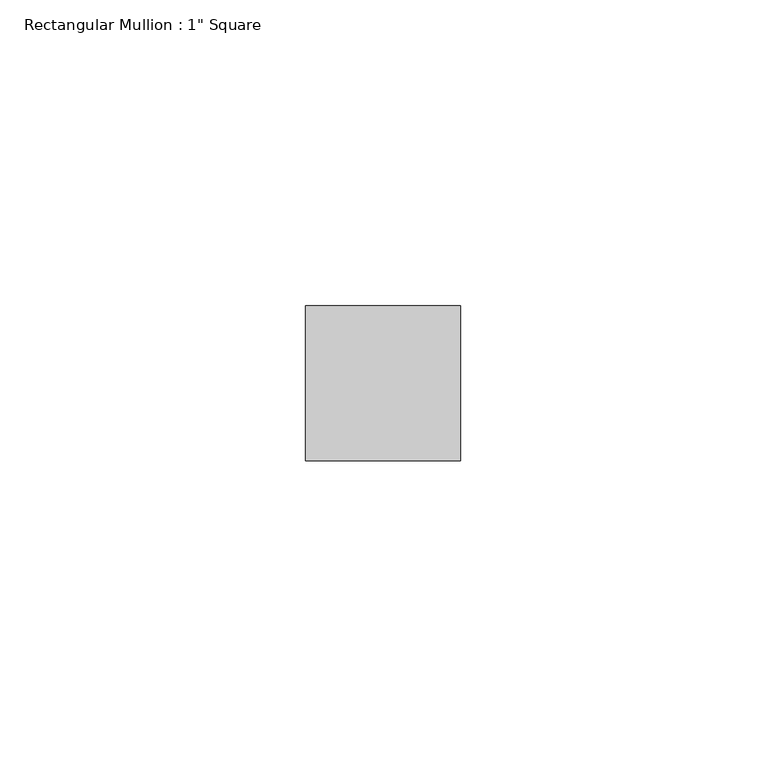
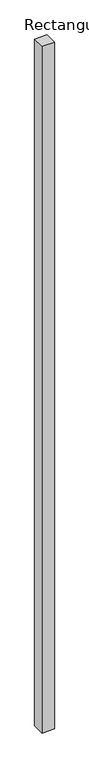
"""IFC4 building model written with IfcOpenShell, lengths in millimetres: member geometry."""

from ifc_helpers import new_model, si_unit, frame, origin, place, context, project, spatial, polyline, outline, extrude, source, transform, mapped, element, save


def member_07455e61(model_context):
    return source(origin(), model_context, "Body", "SweptSolid", [
        extrude(outline(polyline([(12.7, 12.7), (12.7, -12.7), (-12.7, -12.7), (-12.7, 12.7), (12.7, 12.7)])), frame((0.0, 0.0, -1482.434148), z_axis=(0.0, 0.0, 1.0), x_axis=(1.0, 0.0, 0.0)), (0.0, 0.0, 1.0), 1482.434148),
    ])


if __name__ == "__main__":
    model = new_model("IFC4")
    model_context = context("Model", 3, world=origin())
    ifc_project = project(units=[si_unit("LENGTHUNIT", "METRE", prefix="MILLI")], contexts=[model_context])
    site = spatial("IfcSite", under=ifc_project)
    building = spatial("IfcBuilding", under=site)
    placement = place(None, origin())
    member_shape = member_07455e61(model_context)
    element("IfcMember", 1, ObjectType="Rectangular Mullion : 1\" Square", at=placement, inside=building, context=model_context, shape_type="MappedRepresentation", body=[
        mapped(member_shape, transform((0.0, 0.0, 0.0), x_axis=(1.0, 0.0, 0.0), y_axis=(0.0, 1.0, 0.0), z_axis=(0.0, 0.0, 1.0))),
    ])
    save(model, "model.ifc")
